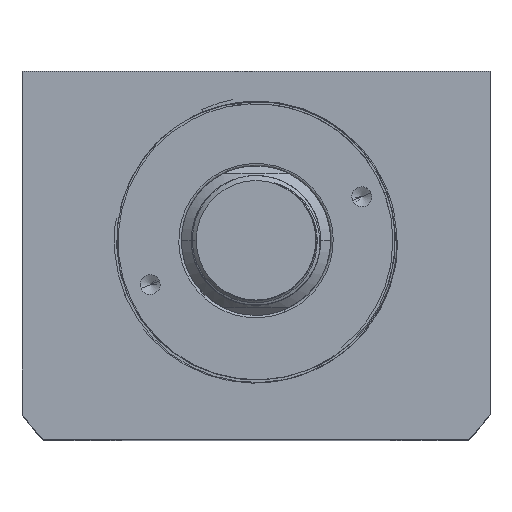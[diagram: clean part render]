
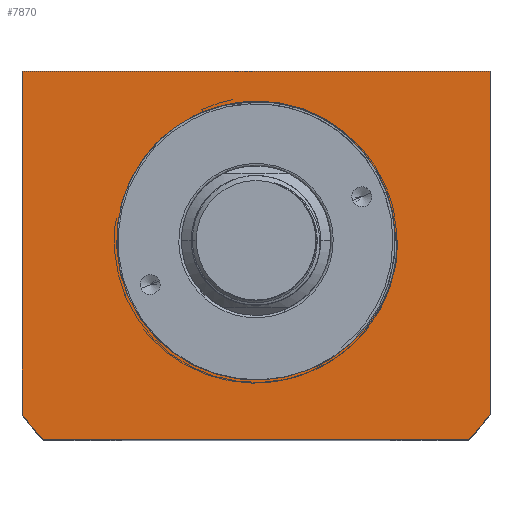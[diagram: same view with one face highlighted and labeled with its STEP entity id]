
A CAD part, top view. The second image highlights one B-rep face of the part: STEP entity #7870.
In plain terms, the highlighted planar face has unit normal (0, 0, 1).
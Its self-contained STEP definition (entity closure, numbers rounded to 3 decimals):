
#322 = EDGE_CURVE ( 'NONE', #16872, #11008, #12365, .T. ) ;
#564 = CARTESIAN_POINT ( 'NONE',  ( 0., 0., 45. ) ) ;
#801 = CARTESIAN_POINT ( 'NONE',  ( 10.232, -26.064, 45. ) ) ;
#957 = CIRCLE ( 'NONE', #4513, 28. ) ;
#1737 = ORIENTED_EDGE ( 'NONE', *, *, #322, .T. ) ;
#1823 = LINE ( 'NONE', #564, #10843 ) ;
#1963 = CARTESIAN_POINT ( 'NONE',  ( -47., -34.832, 45. ) ) ;
#2638 = ORIENTED_EDGE ( 'NONE', *, *, #14273, .T. ) ;
#2744 = VERTEX_POINT ( 'NONE', #14841 ) ;
#3019 = CARTESIAN_POINT ( 'NONE',  ( 0., 0., 45. ) ) ;
#3127 = CARTESIAN_POINT ( 'NONE',  ( 26.163, -10.961, 45. ) ) ;
#3436 = AXIS2_PLACEMENT_3D ( 'NONE', #4337, #14851, #17870 ) ;
#3898 = CARTESIAN_POINT ( 'NONE',  ( 19.714, -20.129, 45. ) ) ;
#4025 = DIRECTION ( 'NONE',  ( 1., 0., 0. ) ) ;
#4091 = CARTESIAN_POINT ( 'NONE',  ( 0., 0., 45. ) ) ;
#4221 = PLANE ( 'NONE',  #15432 ) ;
#4321 = VERTEX_POINT ( 'NONE', #14337 ) ;
#4337 = CARTESIAN_POINT ( 'NONE',  ( 0., 0., 45. ) ) ;
#4513 = AXIS2_PLACEMENT_3D ( 'NONE', #15733, #9935, #15667 ) ;
#4620 = EDGE_CURVE ( 'NONE', #18101, #16207, #4856, .T. ) ;
#4632 = EDGE_CURVE ( 'NONE', #10988, #4321, #1823, .T. ) ;
#4704 = CARTESIAN_POINT ( 'NONE',  ( 28.449, -1.419, 45. ) ) ;
#4766 = CARTESIAN_POINT ( 'NONE',  ( 28.495, 0., 45. ) ) ;
#4856 = LINE ( 'NONE', #1963, #12239 ) ;
#5023 = EDGE_LOOP ( 'NONE', ( #13946, #7949, #14636, #9061, #1737, #2638 ) ) ;
#5267 = CARTESIAN_POINT ( 'NONE',  ( 22.571, -17.007, 45. ) ) ;
#5297 = CARTESIAN_POINT ( 'NONE',  ( 10.232, -26.064, 45. ) ) ;
#5521 = EDGE_CURVE ( 'NONE', #2744, #18101, #11061, .T. ) ;
#5587 = LINE ( 'NONE', #9089, #12945 ) ;
#6389 = DIRECTION ( 'NONE',  ( 0., -1., 0. ) ) ;
#6477 = FACE_BOUND ( 'NONE', #11845, .T. ) ;
#6620 = CARTESIAN_POINT ( 'NONE',  ( 13.459, -24.624, 45. ) ) ;
#7116 = DIRECTION ( 'NONE',  ( 0., 1., 0. ) ) ;
#7563 = CARTESIAN_POINT ( 'NONE',  ( 28.233, -3.538, 45. ) ) ;
#7762 = CARTESIAN_POINT ( 'NONE',  ( 28.485, -0.71, 45. ) ) ;
#7870 = ADVANCED_FACE ( 'NONE', ( #6477, #18689 ), #4221, .T. ) ;
#7949 = ORIENTED_EDGE ( 'NONE', *, *, #4620, .T. ) ;
#8122 = CARTESIAN_POINT ( 'NONE',  ( 10.89, -25.816, 45. ) ) ;
#8400 = EDGE_CURVE ( 'NONE', #16207, #15583, #14331, .T. ) ;
#8576 = VECTOR ( 'NONE', #12438, 1000. ) ;
#9018 = DIRECTION ( 'NONE',  ( 1., 0., 0. ) ) ;
#9061 = ORIENTED_EDGE ( 'NONE', *, *, #14948, .T. ) ;
#9089 = CARTESIAN_POINT ( 'NONE',  ( 42.688, -40., 45. ) ) ;
#9231 = DIRECTION ( 'NONE',  ( -1., 0., 0. ) ) ;
#9660 = CARTESIAN_POINT ( 'NONE',  ( 11.542, -25.544, 45. ) ) ;
#9716 = CARTESIAN_POINT ( 'NONE',  ( 12.831, -24.945, 45. ) ) ;
#9749 = VECTOR ( 'NONE', #7116, 1000. ) ;
#9935 = DIRECTION ( 'NONE',  ( 0., 0., -1. ) ) ;
#10502 = CARTESIAN_POINT ( 'NONE',  ( 27.555, -6.99, 45. ) ) ;
#10843 = VECTOR ( 'NONE', #9231, 1000. ) ;
#10988 = VERTEX_POINT ( 'NONE', #16876 ) ;
#11008 = VERTEX_POINT ( 'NONE', #12489 ) ;
#11061 = LINE ( 'NONE', #13989, #8576 ) ;
#11290 = CARTESIAN_POINT ( 'NONE',  ( -47., -34.832, 45. ) ) ;
#11845 = EDGE_LOOP ( 'NONE', ( #12312, #18557, #13650 ) ) ;
#11987 = CARTESIAN_POINT ( 'NONE',  ( 26.694, -9.657, 45. ) ) ;
#12019 = VERTEX_POINT ( 'NONE', #5297 ) ;
#12232 = AXIS2_PLACEMENT_3D ( 'NONE', #3019, #13222, #17624 ) ;
#12239 = VECTOR ( 'NONE', #6389, 1000. ) ;
#12312 = ORIENTED_EDGE ( 'NONE', *, *, #4632, .F. ) ;
#12365 = CIRCLE ( 'NONE', #12232, 58.5 ) ;
#12438 = DIRECTION ( 'NONE',  ( -1., 0., 0. ) ) ;
#12489 = CARTESIAN_POINT ( 'NONE',  ( 47., -34.832, 45. ) ) ;
#12945 = VECTOR ( 'NONE', #9018, 1000. ) ;
#13017 = CARTESIAN_POINT ( 'NONE',  ( 47., 34., 45. ) ) ;
#13222 = DIRECTION ( 'NONE',  ( 0., 0., 1. ) ) ;
#13297 = CARTESIAN_POINT ( 'NONE',  ( -42.688, -40., 45. ) ) ;
#13393 = CARTESIAN_POINT ( 'NONE',  ( 28.323, -2.832, 45. ) ) ;
#13647 = LINE ( 'NONE', #13017, #9749 ) ;
#13650 = ORIENTED_EDGE ( 'NONE', *, *, #14633, .T. ) ;
#13946 = ORIENTED_EDGE ( 'NONE', *, *, #5521, .T. ) ;
#13989 = CARTESIAN_POINT ( 'NONE',  ( -47., 34., 45. ) ) ;
#14166 = CARTESIAN_POINT ( 'NONE',  ( 15.3, -23.593, 45. ) ) ;
#14225 = CARTESIAN_POINT ( 'NONE',  ( 42.688, -40., 45. ) ) ;
#14273 = EDGE_CURVE ( 'NONE', #11008, #2744, #13647, .T. ) ;
#14331 = CIRCLE ( 'NONE', #3436, 58.5 ) ;
#14337 = CARTESIAN_POINT ( 'NONE',  ( 28., 0., 45. ) ) ;
#14423 = CARTESIAN_POINT ( 'NONE',  ( -47., 34., 45. ) ) ;
#14633 = EDGE_CURVE ( 'NONE', #12019, #4321, #957, .T. ) ;
#14636 = ORIENTED_EDGE ( 'NONE', *, *, #8400, .T. ) ;
#14841 = CARTESIAN_POINT ( 'NONE',  ( 47., 34., 45. ) ) ;
#14851 = DIRECTION ( 'NONE',  ( 0., 0., 1. ) ) ;
#14948 = EDGE_CURVE ( 'NONE', #15583, #16872, #5587, .T. ) ;
#14961 = CARTESIAN_POINT ( 'NONE',  ( 24.898, -13.504, 45. ) ) ;
#15432 = AXIS2_PLACEMENT_3D ( 'NONE', #4091, #18777, #4025 ) ;
#15444 = CARTESIAN_POINT ( 'NONE',  ( 18.129, -21.529, 45. ) ) ;
#15583 = VERTEX_POINT ( 'NONE', #13297 ) ;
#15667 = DIRECTION ( 'NONE',  ( 1., 0., 0. ) ) ;
#15733 = CARTESIAN_POINT ( 'NONE',  ( 0., 0., 45. ) ) ;
#16207 = VERTEX_POINT ( 'NONE', #11290 ) ;
#16872 = VERTEX_POINT ( 'NONE', #14225 ) ;
#16876 = CARTESIAN_POINT ( 'NONE',  ( 28.495, 0., 45. ) ) ;
#16935 = CARTESIAN_POINT ( 'NONE',  ( 16.467, -22.819, 45. ) ) ;
#16991 = CARTESIAN_POINT ( 'NONE',  ( 20.224, -19.631, 45. ) ) ;
#17624 = DIRECTION ( 'NONE',  ( 1., 0., 0. ) ) ;
#17729 = EDGE_CURVE ( 'NONE', #10988, #12019, #17769, .T. ) ;
#17769 = B_SPLINE_CURVE_WITH_KNOTS ( 'NONE', 3,
 ( #4766, #7762, #4704, #13393, #7563, #17856, #10502, #11987, #3127, #14961, #18342, #5267, #18464, #16991, #3898, #18409, #15444, #16935, #14166, #6620, #9716, #9660, #8122, #801 ),
 .UNSPECIFIED., .F., .F.,
 ( 4, 2, 2, 2, 2, 2, 2, 2, 2, 2, 2, 4 ),
 ( 0., 0.002, 0.004, 0.009, 0.013, 0.017, 0.021, 0.023, 0.026, 0.03, 0.032, 0.034 ),
 .UNSPECIFIED. ) ;
#17856 = CARTESIAN_POINT ( 'NONE',  ( 27.887, -5.628, 45. ) ) ;
#17870 = DIRECTION ( 'NONE',  ( 1., 0., 0. ) ) ;
#18101 = VERTEX_POINT ( 'NONE', #14423 ) ;
#18342 = CARTESIAN_POINT ( 'NONE',  ( 24.178, -14.712, 45. ) ) ;
#18409 = CARTESIAN_POINT ( 'NONE',  ( 18.667, -21.077, 45. ) ) ;
#18464 = CARTESIAN_POINT ( 'NONE',  ( 21.684, -18.094, 45. ) ) ;
#18557 = ORIENTED_EDGE ( 'NONE', *, *, #17729, .T. ) ;
#18689 = FACE_OUTER_BOUND ( 'NONE', #5023, .T. ) ;
#18777 = DIRECTION ( 'NONE',  ( 0., 0., 1. ) ) ;
